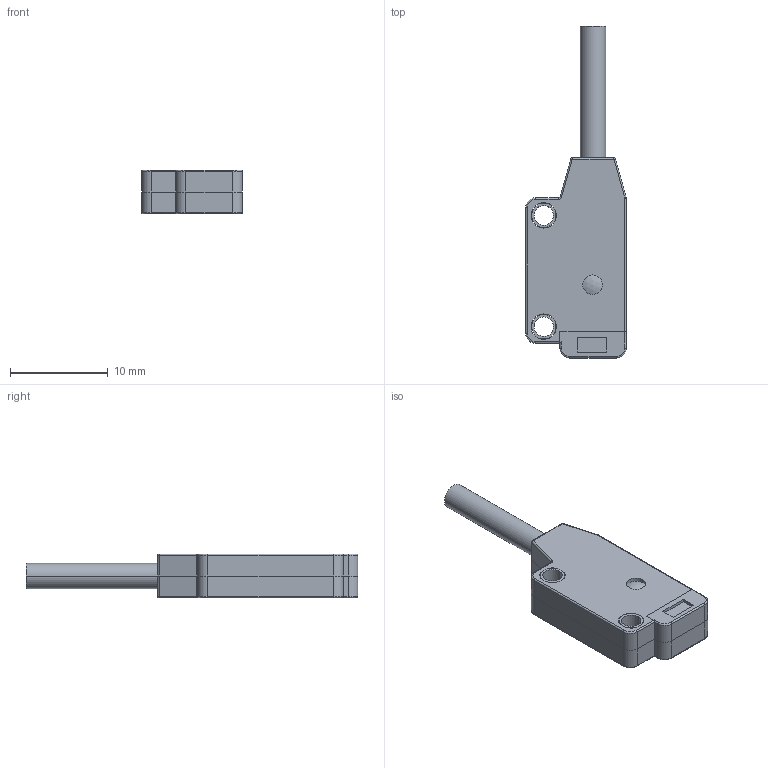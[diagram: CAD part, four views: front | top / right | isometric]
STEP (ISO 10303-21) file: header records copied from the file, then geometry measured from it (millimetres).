
FILE_DESCRIPTION((''),'2;1');
FILE_NAME('SX-11N1_JIESHOU-20180411_ASM','2018-08-08T14:14:03',('Administrator'),(''),'CREO PARAMETRIC BY PTC INC, 2016390','CREO PARAMETRIC BY PTC INC, 2016390','');
FILE_SCHEMA(('CONFIG_CONTROL_DESIGN'));
Length unit declared in the file: millimetre
Products named in the file (8): 4972; 4973; JS_; SX-13N1_LEN2018_4_BAMO2_5; GUANGMINDIANZHU; CH16010MOLD_1_14; TONGZHU; SX-11N1_JIESHOU-20180411_ASM
Assembly tree (8 placements, depth 2):
  SX-11N1_JIESHOU-20180411_ASM
    4972
    4973
    JS_
    SX-13N1_LEN2018_4_BAMO2_5
    GUANGMINDIANZHU
    CH16010MOLD_1_14
    TONGZHU  x2
Bounding box: 10.3 x 34 x 4.5 mm (x, y, z)
Volume: 710.8 mm3; surface area: 1908 mm2
Topology: 8 solids, 8 shells, 356 faces, 924 edges, 604 vertices
Faces by surface type: plane 256, cylinder 67, torus 18, cone 6, sphere 5, bspline 4
Entity records: 10947 total; most frequent: CARTESIAN_POINT 2010, ORIENTED_EDGE 1818, DIRECTION 1805, EDGE_CURVE 909, VECTOR 723, LINE 723, VERTEX_POINT 596, AXIS2_PLACEMENT_3D 541
